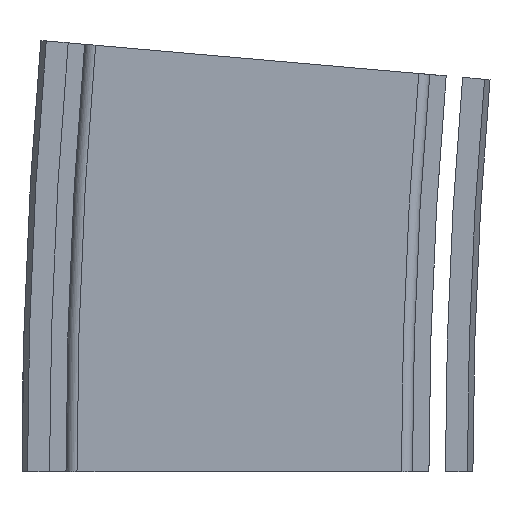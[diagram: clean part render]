
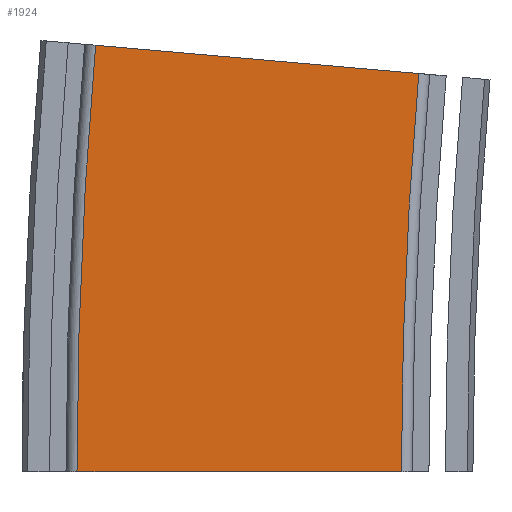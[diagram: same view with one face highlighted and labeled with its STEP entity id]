
A CAD part, left-side view. The second image highlights one B-rep face of the part: STEP entity #1924.
In plain terms, the highlighted planar face has unit normal (-1, 0, 0).
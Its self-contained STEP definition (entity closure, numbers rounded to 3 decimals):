
#1864=CARTESIAN_POINT('',(-34.,-64.16,72.383));
#1865=VERTEX_POINT('',#1864);
#1873=CARTESIAN_POINT('',(-34.,-61.,0.0));
#1874=VERTEX_POINT('',#1873);
#1875=CARTESIAN_POINT('',(-34.,-891.5,0.0));
#1876=DIRECTION('',(1.0,0.0,0.0));
#1877=DIRECTION('',(0.0,1.0,0.0));
#1878=AXIS2_PLACEMENT_3D('',#1875,#1876,#1877);
#1879=CIRCLE('',#1878,830.5);
#1880=EDGE_CURVE('',#1874,#1865,#1879,.T.);
#1893=CARTESIAN_POINT('',(-34.,-31.5,0.0));
#1894=DIRECTION('',(-1.0,0.0,0.0));
#1895=DIRECTION('',(0.0,0.0,1.0));
#1896=AXIS2_PLACEMENT_3D('',#1893,#1894,#1895);
#1897=PLANE('',#1896);
#1898=CARTESIAN_POINT('',(-34.,-5.385,77.525));
#1899=VERTEX_POINT('',#1898);
#1900=CARTESIAN_POINT('',(-34.,-64.16,72.383));
#1901=DIRECTION('',(0.,0.996,0.087));
#1902=VECTOR('',#1901,59.);
#1903=LINE('',#1900,#1902);
#1904=EDGE_CURVE('',#1865,#1899,#1903,.T.);
#1905=ORIENTED_EDGE('',*,*,#1904,.T.);
#1906=CARTESIAN_POINT('',(-34.,-2.,0.0));
#1907=VERTEX_POINT('',#1906);
#1908=CARTESIAN_POINT('',(-34.,-891.5,0.0));
#1909=DIRECTION('',(1.0,0.0,0.0));
#1910=DIRECTION('',(0.0,1.0,0.0));
#1911=AXIS2_PLACEMENT_3D('',#1908,#1909,#1910);
#1912=CIRCLE('',#1911,889.5);
#1913=EDGE_CURVE('',#1907,#1899,#1912,.T.);
#1914=ORIENTED_EDGE('',*,*,#1913,.F.);
#1915=CARTESIAN_POINT('',(-34.,-2.,0.0));
#1916=DIRECTION('',(0.0,-1.0,0.0));
#1917=VECTOR('',#1916,59.);
#1918=LINE('',#1915,#1917);
#1919=EDGE_CURVE('',#1907,#1874,#1918,.T.);
#1920=ORIENTED_EDGE('',*,*,#1919,.T.);
#1921=ORIENTED_EDGE('',*,*,#1880,.T.);
#1922=EDGE_LOOP('',(#1905,#1914,#1920,#1921));
#1923=FACE_OUTER_BOUND('',#1922,.T.);
#1924=ADVANCED_FACE('',(#1923),#1897,.T.);
